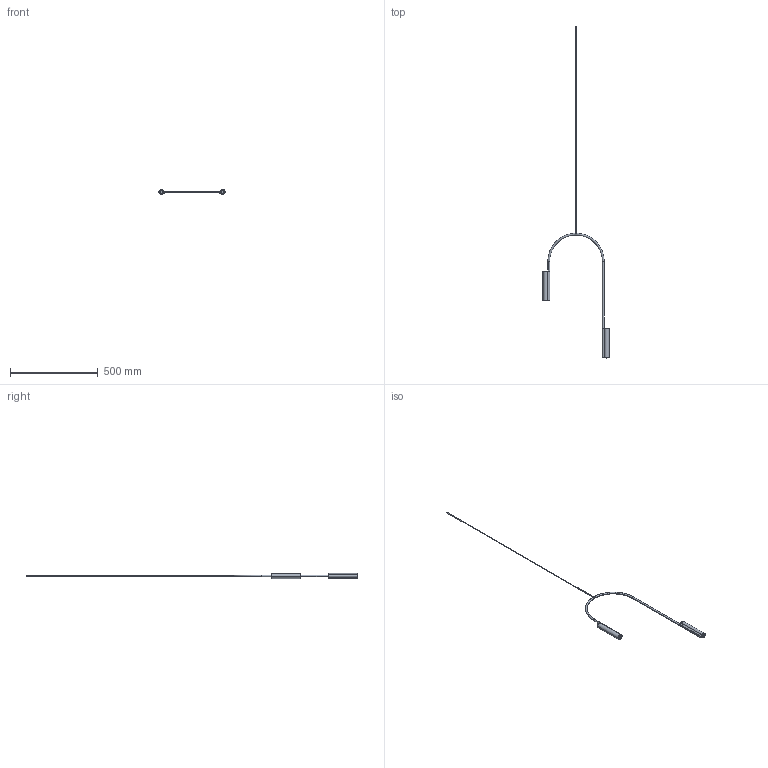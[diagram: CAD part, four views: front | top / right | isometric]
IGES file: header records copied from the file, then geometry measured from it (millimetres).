
Start section: SolidWorks IGES file using analytic representation for surfaces
Global section: file name: C:\Users\Joandita\Dropbox\Rakumba Industrial Design\PRODUCT\2 DEVELOPMENT\POP\CAD\LightWeight CAD\Pop - Pendant B.IGS; native system: SolidWorks 2017; preprocessor: SolidWorks 2017; author: Joandita; date: 240408.161217; units: millimetre
Bounding box: 375.98 x 1889.99 x 28.82 mm (x, y, z)
Surface area: 163305.7 mm2 (no closed solid volume)
Topology: 0 solids, 0 shells, 199 faces, 2951 edges, 2951 vertices
Faces by surface type: bspline 104, revolution 95
